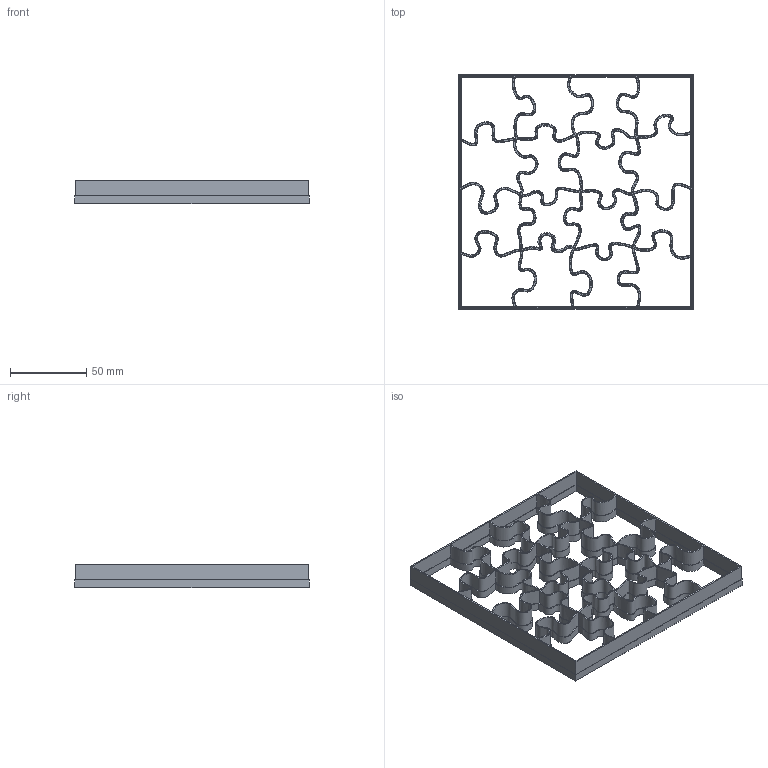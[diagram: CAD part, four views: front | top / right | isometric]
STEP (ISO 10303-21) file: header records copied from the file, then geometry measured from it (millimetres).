
FILE_DESCRIPTION (( 'STEP AP203' ), '1' );
FILE_NAME ('Cutter.STEP', '2022-12-15T18:54:16', ( 'lobocnc@gmail.com' ), ( 'HP' ), 'SwSTEP 2.0', 'SolidWorks 2011', '' );
FILE_SCHEMA (( 'CONFIG_CONTROL_DESIGN' ));
Length unit declared in the file: inch
Products named in the file (1): Cutter
Bounding box: 154 x 154 x 15.24 mm (x, y, z)
Volume: 33539.1 mm3; surface area: 66812.8 mm2
Topology: 1 solids, 1 shells, 155 faces, 408 edges, 272 vertices
Faces by surface type: bspline 96, plane 59
Entity records: 49625 total; most frequent: CARTESIAN_POINT 46308, ORIENTED_EDGE 816, EDGE_CURVE 408, DIRECTION 336, VERTEX_POINT 272, VECTOR 216, LINE 216, EDGE_LOOP 204
